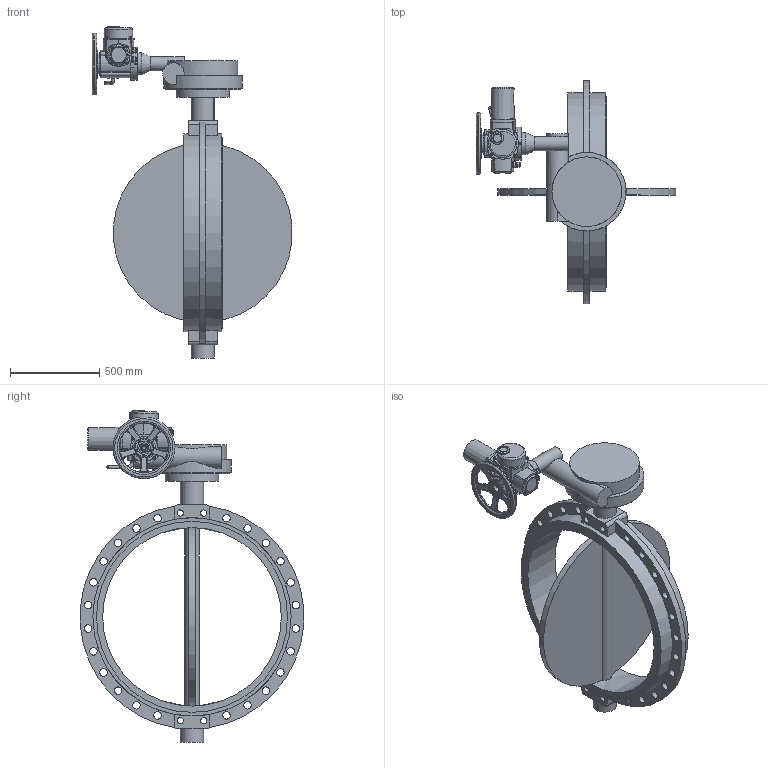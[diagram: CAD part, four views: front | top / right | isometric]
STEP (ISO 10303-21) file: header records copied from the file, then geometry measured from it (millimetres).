
FILE_DESCRIPTION(('STEP AP203'), '1');
FILE_NAME('Çàòâîð 017WDN1000 ðåäóêòîð+ÝÏ ÌÒ903Ì.20', '', ('UNSPECIFIED'), ('UNSPECIFIED'), 'ASCON STEP Converter 1.6', 'ASCON Math Kernel', '');
FILE_SCHEMA(('CONFIG_CONTROL_DESIGN'));
Length unit declared in the file: millimetre
Bounding box: 1120.05 x 1250.64 x 1859.43 mm (x, y, z)
Volume: 124345470.7 mm3; surface area: 5807716.3 mm2
Topology: 2 solids, 2 shells, 2523 faces, 6676 edges, 4214 vertices
Faces by surface type: plane 1139, cylinder 1074, cone 209, bspline 50, torus 47, sphere 4
Full cylindrical faces by diameter (mm): 2.5 x2, 4.5 x4, 5 x6, 6 x23, 6.5 x6, 8 x25, 8.376 x11, 8.5 x13, 9 x4, 10 x10, 13 x17, 13.835 x4, 14 x8, 16 x10, 17 x2, 17.5 x8, 18 x14, 18.5 x1, 20 x1, 22.835 x1, 23.917 x1, 25 x2, 28 x2, 34.67 x4, 41.2 x1, 42 x25, 46 x2, 55 x1, 60 x4, 62 x1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
Entity records: 116825 total; most frequent: CARTESIAN_POINT 35242, DIRECTION 13232, ORIENTED_EDGE 12408, EDGE_CURVE 6204, AXIS2_PLACEMENT_3D 5345, VERTEX_POINT 4175, EDGE_LOOP 3173, CIRCLE 2873
